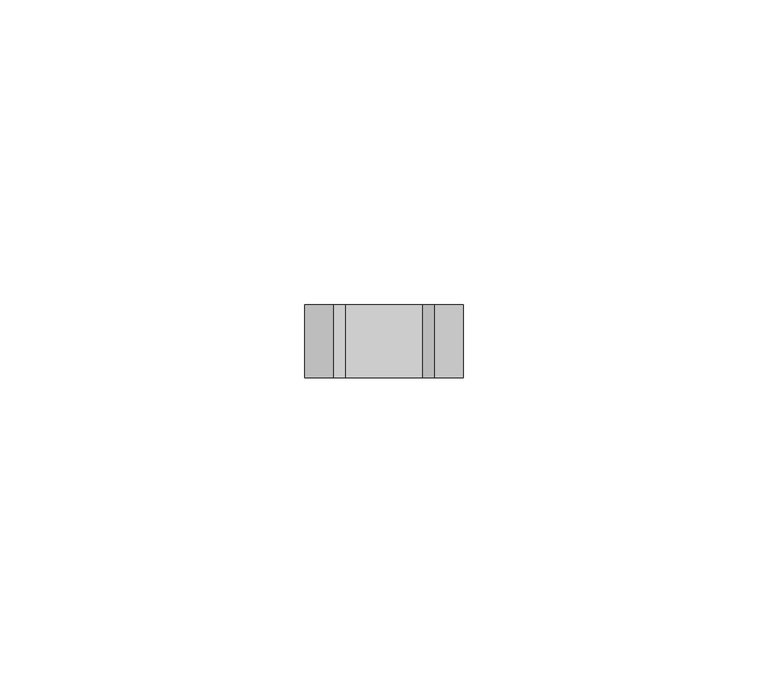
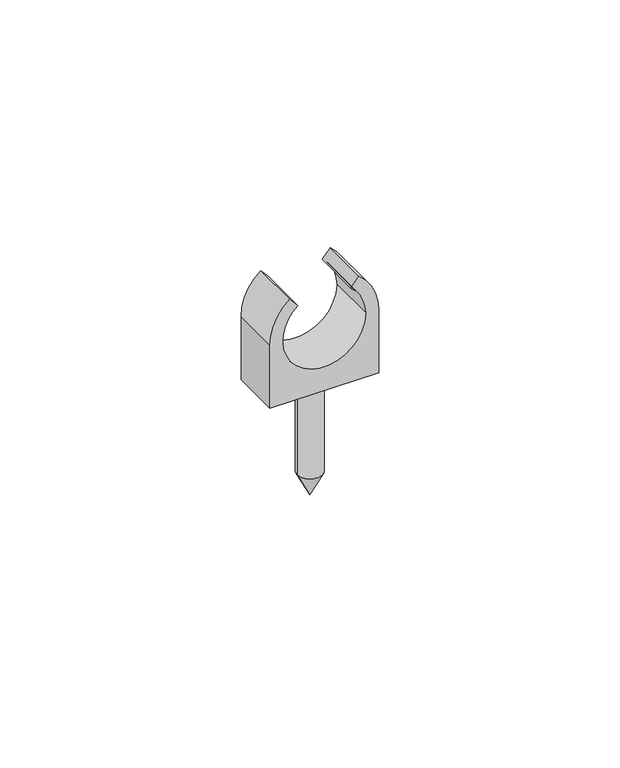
"""IFC4 building model written with IfcOpenShell, lengths in millimetres: cable carrier fitting geometry."""

import ifcopenshell
import ifcopenshell.guid

model = None  # the IFC model being written
_history = None  # IfcOwnerHistory: only IFC2X3 demands one
_inside = {}  # id of a spatial element -> (the spatial element, [elements in it])
_under = {}  # id of a project, library or spatial element -> (it, [spatial elements below it])
_declared = {}  # id of a project -> (the project, [libraries it declares])
_typed = {}  # id of a type object -> (the type object, [elements of that type])
_made_of = {}  # id of a material, layer set ... -> (it, [elements and type objects made of it])


def new_model(schema):
    """Start an empty IFC model of exactly this schema.

    Asked for "IFC4X3", IfcOpenShell would pick the latest addendum, in which some entities
    have other attributes; the version numbers below select the first issue.
    IFC2X3 requires an IfcOwnerHistory on every rooted entity: one is made here for all.
    """
    global model, _history
    if schema == "IFC4X3":
        model = ifcopenshell.file(schema_version=(4, 3, 0, 0))
    else:
        model = ifcopenshell.file(schema=schema)
    _inside.clear()
    _under.clear()
    _declared.clear()
    _typed.clear()
    _made_of.clear()
    _history = None
    if model.schema == "IFC2X3":
        org = make("IfcOrganization", Name="unknown")
        user = make(
            "IfcPersonAndOrganization",
            ThePerson=make("IfcPerson", FamilyName="unknown"),
            TheOrganization=org,
        )
        app = make(
            "IfcApplication",
            ApplicationDeveloper=org,
            Version="unknown",
            ApplicationFullName="unknown",
            ApplicationIdentifier="unknown",
        )
        _history = make(
            "IfcOwnerHistory",
            OwningUser=user,
            OwningApplication=app,
            ChangeAction="ADDED",
            CreationDate=0,
        )
    return model


def make(cls, **values):
    """One entity of the class cls with the attributes given. An attribute that is None is left unset."""
    return model.create_entity(
        cls, **{name: value for name, value in values.items() if value is not None}
    )


def rooted(cls, **values):
    """An entity with a GlobalId (a new one), such as an element, a storey or a relation."""
    return make(cls, GlobalId=ifcopenshell.guid.new(), OwnerHistory=_history, **values)


def si_unit(unit_type, name, prefix=None):
    """IfcSIUnit, for example si_unit("LENGTHUNIT", "METRE", prefix="MILLI")."""
    return make("IfcSIUnit", UnitType=unit_type, Prefix=prefix, Name=name)


def assignment(units):
    """IfcUnitAssignment: the units of a project."""
    return None if units is None else make("IfcUnitAssignment", Units=units)


def point(xyz):
    """IfcCartesianPoint."""
    return None if xyz is None else make("IfcCartesianPoint", Coordinates=xyz)


def direction(xyz):
    """IfcDirection."""
    return None if xyz is None else make("IfcDirection", DirectionRatios=xyz)


def frame(location, z_axis=None, x_axis=None):
    """IfcAxis2Placement3D, a coordinate frame: its origin and axes. An axis left out is left unset."""
    return make(
        "IfcAxis2Placement3D",
        Location=point(location),
        Axis=direction(z_axis),
        RefDirection=direction(x_axis),
    )


def frame_2d(location, x_axis=None):
    """IfcAxis2Placement2D, a coordinate frame in the plane: its origin and x axis."""
    return make(
        "IfcAxis2Placement2D", Location=point(location), RefDirection=direction(x_axis)
    )


def origin():
    """The frame at (0, 0, 0) with its axes left unset."""
    return frame((0.0, 0.0, 0.0))


def place(relative_to, where):
    """IfcLocalPlacement: puts the frame where relative to a parent placement (None: the world)."""
    return make(
        "IfcLocalPlacement", PlacementRelTo=relative_to, RelativePlacement=where
    )


def context(
    kind, dimensions, precision=None, world=None, true_north=None, identifier=None
):
    """IfcGeometricRepresentationContext, for example the 3D "Model" context."""
    return make(
        "IfcGeometricRepresentationContext",
        ContextIdentifier=identifier,
        ContextType=kind,
        CoordinateSpaceDimension=dimensions,
        Precision=precision,
        WorldCoordinateSystem=world,
        TrueNorth=true_north,
    )


def project(units=None, contexts=None):
    """IfcProject with its units and contexts."""
    return rooted(
        "IfcProject",
        Name="project",
        RepresentationContexts=contexts,
        UnitsInContext=assignment(units),
    )


def spatial(cls, under=None, at=None, **own):
    """A site, building, storey or space (cls), placed at a placement, below another one or the project."""
    s = rooted(cls, ObjectPlacement=at, **own)
    if under is not None:
        _under.setdefault(under.id(), (under, []))[1].append(s)
    return s


def polyline(points):
    """IfcPolyline through the points."""
    return make("IfcPolyline", Points=[point(p) for p in points])


def circle_curve(where, radius):
    """IfcCircle in the frame where."""
    return make("IfcCircle", Position=where, Radius=radius)


def trimmed(basis, trim1, trim2, sense, master):
    """IfcTrimmedCurve: the piece of a basis curve between two trims."""
    return make(
        "IfcTrimmedCurve",
        BasisCurve=basis,
        Trim1=trim1,
        Trim2=trim2,
        SenseAgreement=sense,
        MasterRepresentation=master,
    )


def segment(curve, same_sense, transition):
    """IfcCompositeCurveSegment."""
    return make(
        "IfcCompositeCurveSegment",
        Transition=transition,
        SameSense=same_sense,
        ParentCurve=curve,
    )


def composite_curve(segments, self_intersect=None):
    """IfcCompositeCurve: segments joined end to end."""
    return make("IfcCompositeCurve", Segments=segments, SelfIntersect=self_intersect)


def outline(outer, holes=None, kind="AREA"):
    """IfcArbitraryClosedProfileDef: a profile drawn as a closed curve; with holes, ...WithVoids."""
    if holes is None:
        return make("IfcArbitraryClosedProfileDef", ProfileType=kind, OuterCurve=outer)
    return make(
        "IfcArbitraryProfileDefWithVoids",
        ProfileType=kind,
        OuterCurve=outer,
        InnerCurves=holes,
    )


def extrude(swept, where, along, depth):
    """IfcExtrudedAreaSolid: the profile swept, set in the frame where, extruded along a direction by depth."""
    return make(
        "IfcExtrudedAreaSolid",
        SweptArea=swept,
        Position=where,
        ExtrudedDirection=direction(along),
        Depth=depth,
    )


def shape(context_of_items, identifier, shape_type, items):
    """IfcShapeRepresentation: the items that make up one representation, for example the "Body"."""
    return make(
        "IfcShapeRepresentation",
        ContextOfItems=context_of_items,
        RepresentationIdentifier=identifier,
        RepresentationType=shape_type,
        Items=items,
    )


def source(mapping_origin, context_of_items, identifier, shape_type, items):
    """IfcRepresentationMap: a shape defined once, which mapped items show again and again."""
    return make(
        "IfcRepresentationMap",
        MappingOrigin=mapping_origin,
        MappedRepresentation=shape(context_of_items, identifier, shape_type, items),
    )


def transform(
    local_origin,
    x_axis=None,
    y_axis=None,
    z_axis=None,
    scale=None,
    scale2=None,
    scale3=None,
    uniform=True,
):
    """IfcCartesianTransformationOperator3D, or its non-uniform kind. x_axis, y_axis, z_axis: its Axis1, 2, 3."""
    if uniform:
        return make(
            "IfcCartesianTransformationOperator3D",
            Axis1=direction(x_axis),
            Axis2=direction(y_axis),
            LocalOrigin=point(local_origin),
            Scale=scale,
            Axis3=direction(z_axis),
        )
    return make(
        "IfcCartesianTransformationOperator3DnonUniform",
        Axis1=direction(x_axis),
        Axis2=direction(y_axis),
        LocalOrigin=point(local_origin),
        Scale=scale,
        Axis3=direction(z_axis),
        Scale2=scale2,
        Scale3=scale3,
    )


def mapped(mapping_source, mapping_target):
    """IfcMappedItem: shows the shape of a source again, moved by a transform."""
    return make(
        "IfcMappedItem", MappingSource=mapping_source, MappingTarget=mapping_target
    )


def made_of(thing, what):
    """Note that an element or type object is made of a material, layer set ...; save() writes the relation."""
    if what is not None:
        _made_of.setdefault(what.id(), (what, []))[1].append(thing)
    return thing


def element(
    cls,
    number,
    at=None,
    inside=None,
    cuts=None,
    type_object=None,
    material=None,
    context=None,
    identifier="Body",
    shape_type=None,
    held_by="IfcProductDefinitionShape",
    body=None,
    shapes=None,
    **own,
):
    """One element of the class cls, such as IfcWall. Its Tag is "e" and its number.

    at: its placement. inside: the storey or other place that contains it. cuts: it is an
    opening in that element (IfcRelVoidsElement). A single representation is given by context,
    identifier, shape_type and body (its items); several are given by shapes. held_by: the class
    of the entity that holds the representations. save() writes the other relations.
    """
    e = rooted(cls, Tag="e%d" % number, ObjectPlacement=at, **own)
    if body is not None:
        shapes = [shape(context, identifier, shape_type, body)]
    if shapes is not None:
        e.Representation = make(held_by, Representations=shapes)
    if inside is not None:
        _inside.setdefault(inside.id(), (inside, []))[1].append(e)
    if cuts is not None:
        rooted(
            "IfcRelVoidsElement", RelatingBuildingElement=cuts, RelatedOpeningElement=e
        )
    if type_object is not None:
        _typed.setdefault(type_object.id(), (type_object, []))[1].append(e)
    return made_of(e, material)


def aggregate(whole, parts):
    """IfcRelAggregates: a whole, such as a stair, and the parts it consists of."""
    return rooted("IfcRelAggregates", RelatingObject=whole, RelatedObjects=parts)


def save(model, path):
    """Write the relations noted so far, then the file.

    IfcRelAggregates (storeys below a building ...), IfcRelContainedInSpatialStructure (elements
    in a storey), IfcRelDefinesByType, IfcRelAssociatesMaterial and IfcRelDeclares: one each for
    every whole, place, type object, material and project.
    """
    for whole, parts in _under.values():
        aggregate(whole, parts)
    for where, things in _inside.values():
        rooted(
            "IfcRelContainedInSpatialStructure",
            RelatedElements=things,
            RelatingStructure=where,
        )
    for kind, things in _typed.values():
        rooted("IfcRelDefinesByType", RelatedObjects=things, RelatingType=kind)
    for what, things in _made_of.values():
        rooted("IfcRelAssociatesMaterial", RelatedObjects=things, RelatingMaterial=what)
    for by, libraries in _declared.values():
        rooted("IfcRelDeclares", RelatingContext=by, RelatedDefinitions=libraries)
    model.write(path)


def plane_surface(at):
    """IfcPlane: the flat surface through the origin of the frame at, square to its z axis."""
    return make("IfcPlane", Position=at)


def cylinder_surface(at, radius):
    """IfcCylindricalSurface: all points at the distance radius from the z axis of the frame at."""
    return make("IfcCylindricalSurface", Position=at, Radius=radius)


def revolved_surface(curve, axis_point, axis_direction):
    """IfcSurfaceOfRevolution: the curve turned about the line through axis_point along axis_direction."""
    return make(
        "IfcSurfaceOfRevolution",
        SweptCurve=make("IfcArbitraryOpenProfileDef", ProfileType="CURVE", Curve=curve),
        AxisPosition=make("IfcAxis1Placement", Location=point(axis_point), Axis=direction(axis_direction)),
    )


def advanced_brep(points, edges, surfaces, faces):
    """IfcAdvancedBrep: a solid bounded by faces that lie on surfaces and meet in shared edges.

    An edge is (start, end): straight between two places in points (the first is 0);
    or (start, end, curve); or (start, end, curve, False) where it runs against its curve.
    A face is (place in surfaces, loops), or (place, loops, False) where it looks against
    its surface's normal. A loop lists edges by number (the first is 1), with a minus sign
    where the edge is run from its end to its start. The first loop is the outer one.
    """
    corners = [point(p) for p in points]
    vertices = [make("IfcVertexPoint", VertexGeometry=c) for c in corners]
    made = []
    for start, end, *more in edges:
        made.append(
            make(
                "IfcEdgeCurve",
                EdgeStart=vertices[start],
                EdgeEnd=vertices[end],
                EdgeGeometry=more[0] if more else make("IfcPolyline", Points=[corners[start], corners[end]]),
                SameSense=more[1] if len(more) > 1 else True,
            )
        )
    hull = []
    for where, loops, *sense in faces:
        bounds = []
        for j, loop in enumerate(loops):
            ring = [make("IfcOrientedEdge", EdgeElement=made[abs(k) - 1], Orientation=k > 0) for k in loop]
            bounds.append(
                make(
                    "IfcFaceOuterBound" if j == 0 else "IfcFaceBound",
                    Bound=make("IfcEdgeLoop", EdgeList=ring),
                    Orientation=True,
                )
            )
        hull.append(make("IfcAdvancedFace", Bounds=bounds, FaceSurface=surfaces[where], SameSense=sense[0] if sense else True))
    return make("IfcAdvancedBrep", Outer=make("IfcClosedShell", CfsFaces=hull))


def cable_carrier_fitting_d7937d52(model_context):
    return source(origin(), model_context, "Body", "SolidModel", [
        advanced_brep(
        [(0.0, 0.0, -30.0), (-3.0, 0.0, -24.0), (3.0, 0.0, -24.0), (3.0, 0.0, 0.0), (-3.0, 0.0, 0.0), (0.0, 0.0, 0.0)],
        [
            (0, 1),
            (1, 2, circle_curve(frame((0.0, 0.0, -24.0), z_axis=(0.0, 0.0, -1.0), x_axis=(-1.0, 0.0, 0.0)), 3.0)),
            (2, 0),
            (2, 1, circle_curve(frame((0.0, 0.0, -24.0), z_axis=(0.0, 0.0, -1.0), x_axis=(-1.0, 0.0, 0.0)), 3.0)),
            (3, 4, circle_curve(frame((0.0, 0.0, 0.0), z_axis=(0.0, 0.0, 1.0), x_axis=(-1.0, 0.0, 0.0)), 3.0)),
            (4, 5),
            (5, 3),
            (4, 3, circle_curve(frame((0.0, 0.0, 0.0), z_axis=(0.0, 0.0, 1.0), x_axis=(-1.0, 0.0, 0.0)), 3.0)),
            (1, 4),
            (3, 2),
        ],
        [
            revolved_surface(polyline([(-3.0, 0.0, -24.0), (0.0, 0.0, -30.0)]), (0.0, 0.0, 2615.0581012), (0.0, 0.0, -1.0)),
            plane_surface(frame((0.0, 0.0, 0.0), z_axis=(0.0, 0.0, 1.0), x_axis=(-1.0, 0.0, 0.0))),
            cylinder_surface(frame((0.0, 0.0, 2615.0581012), z_axis=(0.0, 0.0, -1.0), x_axis=(-1.0, 0.0, 0.0)), 3.0),
        ],
        [
            (0, [[1, 2, 3]]),
            (0, [[-3, 4, -1]]),
            (1, [[5, 6, 7]]),
            (1, [[8, -7, -6]]),
            (2, [[-2, 9, -5, 10]]),
            (2, [[-4, -10, -8, -9]]),
        ],
    ),
        extrude(outline(composite_curve([segment(polyline([(0.0, -13.0), (0.0, 13.0), (16.0, 13.0)]), True, "CONTINUOUS"), segment(trimmed(circle_curve(frame_2d((16.0, 0.0)), 13.0), [point((16.0, 13.0))], [point((26.0038119, 8.3020327))], False, "CARTESIAN"), True, "CONTINUOUS"), segment(polyline([(26.0038119, 8.3020327), (23.69524, 6.386179)]), True, "CONTINUOUS"), segment(trimmed(circle_curve(frame_2d((16.0, 0.0)), 10.0), [point((23.69524, 6.386179))], [point((16.0, 10.0))], True, "CARTESIAN"), True, "CONTINUOUS"), segment(trimmed(circle_curve(frame_2d((16.0, 0.0)), 10.0), [point((16.0, 10.0))], [point((16.0, -10.0))], True, "CARTESIAN"), True, "CONTINUOUS"), segment(trimmed(circle_curve(frame_2d((16.0, 0.0)), 10.0), [point((16.0, -10.0))], [point((23.69524, -6.386179))], True, "CARTESIAN"), True, "CONTINUOUS"), segment(polyline([(23.69524, -6.386179), (26.0038119, -8.3020327)]), True, "CONTINUOUS"), segment(trimmed(circle_curve(frame_2d((16.0, 0.0)), 13.0), [point((26.0038119, -8.3020327))], [point((16.0, -13.0))], False, "CARTESIAN"), True, "CONTINUOUS"), segment(polyline([(16.0, -13.0), (0.0, -13.0)]), True, "CONTINUOUS")], self_intersect=False)), frame((0.0, -6.0, 0.0), z_axis=(0.0, 1.0, 0.0), x_axis=(0.0, 0.0, 1.0)), (0.0, 0.0, 1.0), 12.0),
    ])


if __name__ == "__main__":
    model = new_model("IFC4")
    model_context = context("Model", 3, world=origin())
    ifc_project = project(units=[si_unit("LENGTHUNIT", "METRE", prefix="MILLI")], contexts=[model_context])
    site = spatial("IfcSite", under=ifc_project)
    building = spatial("IfcBuilding", under=site)
    placement = place(None, origin())
    cable_carrier_fitting_shape = cable_carrier_fitting_d7937d52(model_context)
    element("IfcCableCarrierFitting", 1, at=placement, inside=building, context=model_context, shape_type="MappedRepresentation", body=[
        mapped(cable_carrier_fitting_shape, transform((0.0, 0.0, 0.0), x_axis=(1.0, 0.0, 0.0), y_axis=(0.0, 1.0, 0.0), z_axis=(0.0, 0.0, 1.0))),
    ])
    save(model, "model.ifc")
